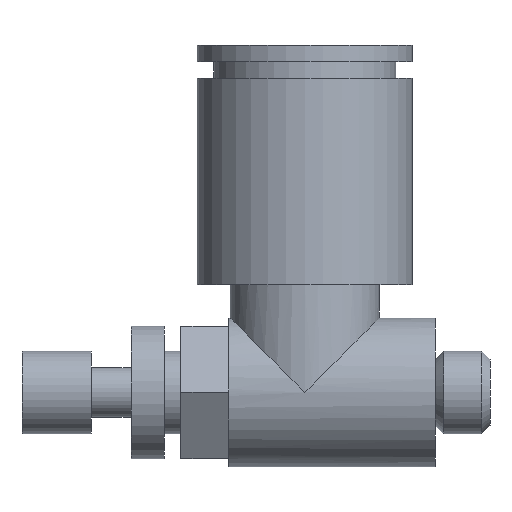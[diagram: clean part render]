
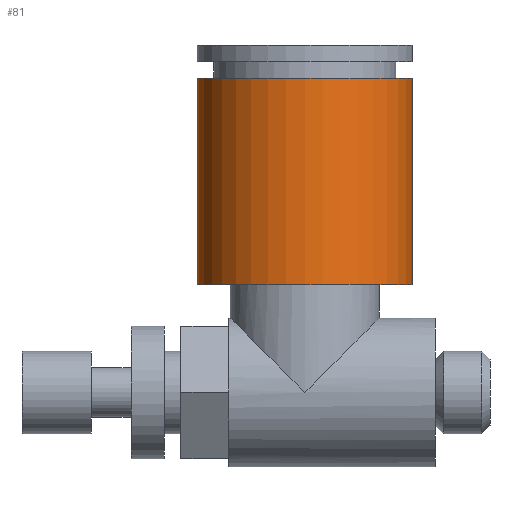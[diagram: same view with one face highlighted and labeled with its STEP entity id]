
A CAD part, left-side view. The second image highlights one B-rep face of the part: STEP entity #81.
In plain terms, the highlighted cylindrical face has radius 6.5 mm (diameter 13 mm), a partial arc.
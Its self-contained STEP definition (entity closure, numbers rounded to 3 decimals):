
#81 = ADVANCED_FACE( '', ( #144 ), #145, .T. );
#144 = FACE_OUTER_BOUND( '', #265, .T. );
#145 = CYLINDRICAL_SURFACE( '', #266, 6.5 );
#265 = EDGE_LOOP( '', ( #425, #426, #427, #428 ) );
#266 = AXIS2_PLACEMENT_3D( '', #429, #430, #431 );
#425 = ORIENTED_EDGE( '', *, *, #811, .F. );
#426 = ORIENTED_EDGE( '', *, *, #812, .T. );
#427 = ORIENTED_EDGE( '', *, *, #813, .F. );
#428 = ORIENTED_EDGE( '', *, *, #814, .F. );
#429 = CARTESIAN_POINT( '', ( 0., 7.9, 12.75 ) );
#430 = DIRECTION( '', ( 0., 0., -1. ) );
#431 = DIRECTION( '', ( 0., 1., 0. ) );
#811 = EDGE_CURVE( '', #959, #960, #961, .T. );
#812 = EDGE_CURVE( '', #959, #962, #963, .T. );
#813 = EDGE_CURVE( '', #964, #962, #965, .T. );
#814 = EDGE_CURVE( '', #960, #964, #966, .T. );
#959 = VERTEX_POINT( '', #1165 );
#960 = VERTEX_POINT( '', #1166 );
#961 = LINE( '', #1167, #1168 );
#962 = VERTEX_POINT( '', #1169 );
#963 = CIRCLE( '', #1170, 6.5 );
#964 = VERTEX_POINT( '', #1171 );
#965 = LINE( '', #1172, #1173 );
#966 = CIRCLE( '', #1174, 6.5 );
#1165 = CARTESIAN_POINT( '', ( 0., 14.4, 6.5 ) );
#1166 = CARTESIAN_POINT( '', ( 0., 14.4, 19. ) );
#1167 = CARTESIAN_POINT( '', ( 0., 14.4, 12.75 ) );
#1168 = VECTOR( '', #1409, 1. );
#1169 = CARTESIAN_POINT( '', ( 0., 1.4, 6.5 ) );
#1170 = AXIS2_PLACEMENT_3D( '', #1410, #1411, #1412 );
#1171 = CARTESIAN_POINT( '', ( 0., 1.4, 19. ) );
#1172 = CARTESIAN_POINT( '', ( 0., 1.4, 12.75 ) );
#1173 = VECTOR( '', #1413, 1. );
#1174 = AXIS2_PLACEMENT_3D( '', #1414, #1415, #1416 );
#1409 = DIRECTION( '', ( 0., 0., 1. ) );
#1410 = CARTESIAN_POINT( '', ( 0., 7.9, 6.5 ) );
#1411 = DIRECTION( '', ( 0., 0., 1. ) );
#1412 = DIRECTION( '', ( 0., 1., 0. ) );
#1413 = DIRECTION( '', ( 0., 0., -1. ) );
#1414 = CARTESIAN_POINT( '', ( 0., 7.9, 19. ) );
#1415 = DIRECTION( '', ( 0., 0., 1. ) );
#1416 = DIRECTION( '', ( 0., 1., 0. ) );
